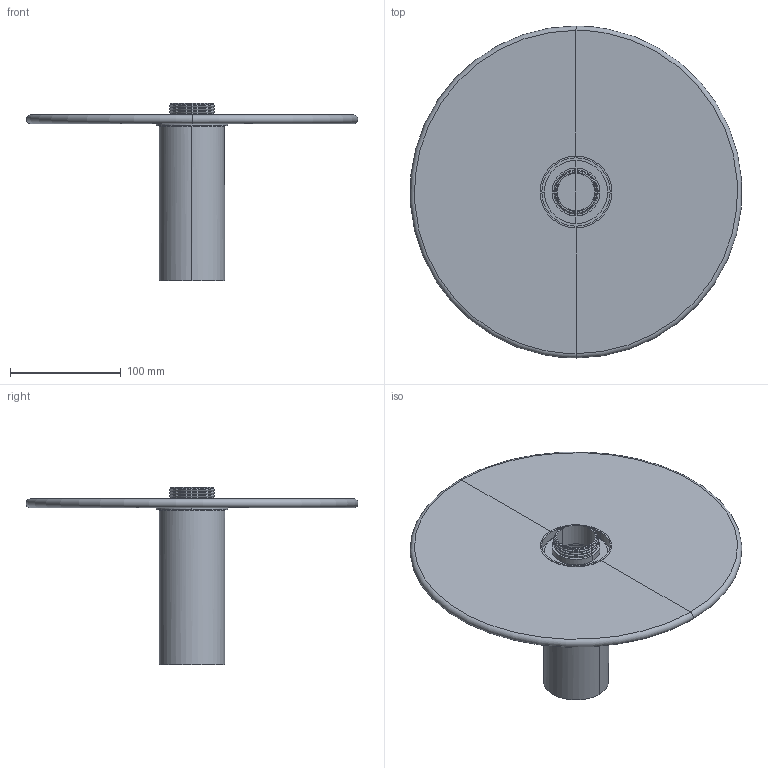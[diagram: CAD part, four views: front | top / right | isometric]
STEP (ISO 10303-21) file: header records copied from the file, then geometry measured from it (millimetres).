
FILE_DESCRIPTION(/* description */ (''),/* implementation_level */ '2;1');
FILE_NAME(/* name */ '62174-50_3d.step',/* time_stamp */ '2024-04-03T10:56:33+02:00',/* author */ ('RenataManzini'),/* organization */ (''),/* preprocessor_version */ 'ST-DEVELOPER v20',/* originating_system */ 'AutoCAD Mechanical',/* authorisation */ '');
FILE_SCHEMA (('AUTOMOTIVE_DESIGN { 1 0 10303 214 3 1 1 }'));
Length unit declared in the file: millimetre
Products named in the file (2): Product; 62174-50_lamp - 62174-50 Lamp-613755-_3D_
Assembly tree (1 placements, depth 2):
  Product
    62174-50_lamp - 62174-50 Lamp-613755-_3D_
Bounding box: 299.31 x 299.99 x 159.95 mm (x, y, z)
Volume: 604666.3 mm3; surface area: 218866.3 mm2
Topology: 4 solids, 4 shells, 84 faces, 194 edges, 110 vertices
Faces by surface type: cylinder 40, plane 32, torus 12
Entity records: 3641 total; most frequent: CARTESIAN_POINT 1699, DIRECTION 414, ORIENTED_EDGE 388, EDGE_CURVE 194, AXIS2_PLACEMENT_3D 171, VERTEX_POINT 110, EDGE_LOOP 88, FACE_OUTER_BOUND 84
